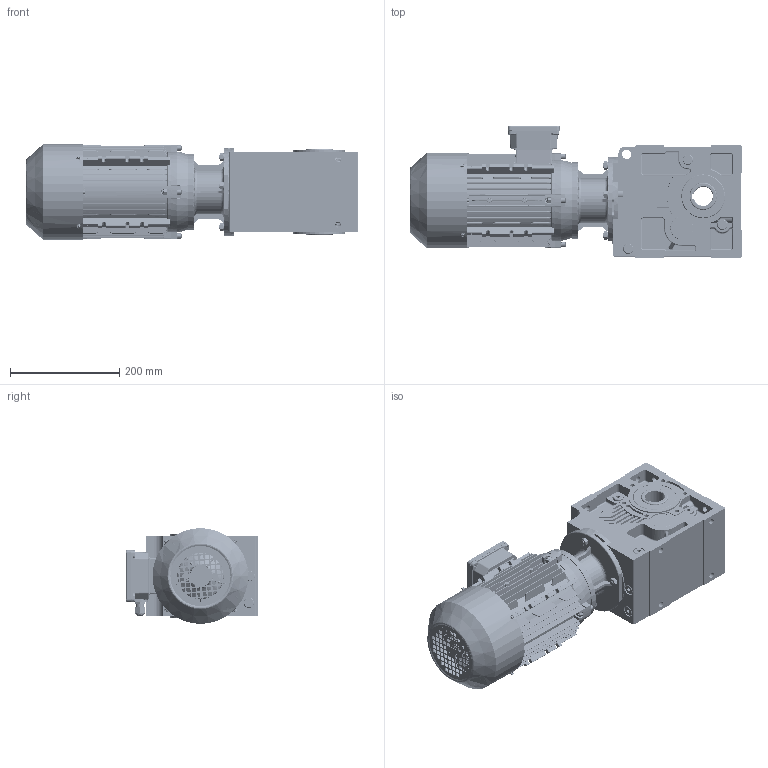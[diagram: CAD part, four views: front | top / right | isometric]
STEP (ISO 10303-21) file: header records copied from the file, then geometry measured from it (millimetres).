
FILE_DESCRIPTION (( 'STEP AP203' ), '1' );
FILE_NAME ('KV_273_0_MX3-90L.STEP', '2018-11-21T12:00:34', ( '' ), ( '' ), 'SwSTEP 2.0', 'SolidWorks 2012', '' );
FILE_SCHEMA (( 'CONFIG_CONTROL_DESIGN' ));
Length unit declared in the file: millimetre
Products named in the file (26): cross recessed pan head tapping screws gb_GB_CROSS_SCREWS_TYPE128 ST4.2X9.5 H C-N_1; hexagon socket head cap screws gb_GB_FASTENER_SCREWS_HSHCS M6X30-N_1; hexagon flange head tapping screws gb_GB_SQUARE_AND_HEXAGON_TYPE137 ST4.2X9.5 F-N_1; spring lock washers--normal type gb_GB_FASTENER_WASHER_SW 6_1; IE3 90L terminal box cover_1; IE3 90L terminal box_1; plain parallel keys_GB_CONNECTING_PIECE_KEYS_CSK 8X40_1; IE3 90L rotor_1; IE3 90L fan_1; IE3 90L fan cover_1; ML17A_Varsayìlan; IE3 90L casing_1; 2390B14_Varsayìlan; K273_Varsayìlan; KV_273_0_MX3-90L; MX3-90L_B14; IE3-90L flange B14; IE3 90L  oil seal_1; hexagon nuts grade c gb_GB_FASTENER_NUT_SNC1 M6-N_1; cross recessed pan head screws gb_GB_CROSS_SCREWS_TYPE1 M5X10-10  H type-N_1; IE3 90L cable glandsM16_1; plain washers-n series-grade a gb_GB_FASTENER_WASHER_PWNA 4_1; IE3 90L grouding mark_1; circlips for shaft--type a large gb_GB_CONNECTING_PIECE_RING_RRA 19_1; cross recessed pan head screws gb_GB_CROSS_SCREWS_TYPE1 M4X5-5  H type-N_1; IE3 90L flange_1
Assembly tree (55 placements, depth 3):
  KV_273_0_MX3-90L
    K273_Varsayìlan
    2390B14_Varsayìlan
    ML17A_Varsayìlan
    MX3-90L_B14
      IE3 90L casing_1
      IE3 90L rotor_1
      IE3 90L fan_1
      IE3 90L fan cover_1
      plain parallel keys_GB_CONNECTING_PIECE_KEYS_CSK 8X40_1
      IE3 90L terminal box_1
      IE3 90L terminal box cover_1
      spring lock washers--normal type gb_GB_FASTENER_WASHER_SW 6_1  x8
      cross recessed pan head tapping screws gb_GB_CROSS_SCREWS_TYPE128 ST4.2X9.5 H C-N_1  x4
      hexagon flange head tapping screws gb_GB_SQUARE_AND_HEXAGON_TYPE137 ST4.2X9.5 F-N_1  x4
      hexagon socket head cap screws gb_GB_FASTENER_SCREWS_HSHCS M6X30-N_1  x8
      IE3 90L flange_1
      circlips for shaft--type a large gb_GB_CONNECTING_PIECE_RING_RRA 19_1
      IE3 90L grouding mark_1
      plain washers-n series-grade a gb_GB_FASTENER_WASHER_PWNA 4_1
      cross recessed pan head screws gb_GB_CROSS_SCREWS_TYPE1 M4X5-5  H type-N_1
      cross recessed pan head screws gb_GB_CROSS_SCREWS_TYPE1 M5X10-10  H type-N_1  x4
      IE3 90L cable glandsM16_1  x2
      IE3 90L  oil seal_1
      hexagon nuts grade c gb_GB_FASTENER_NUT_SNC1 M6-N_1  x7
      IE3-90L flange B14
Bounding box: 607.4 x 240 x 175.1 mm (x, y, z)
Volume: 8043789.9 mm3; surface area: 1303351.5 mm2
Topology: 54 solids, 54 shells, 6061 faces, 15429 edges, 9532 vertices
Faces by surface type: plane 2327, cylinder 1910, bspline 1116, cone 427, torus 164, sphere 117
Entity records: 212075 total; most frequent: CARTESIAN_POINT 85678, ORIENTED_EDGE 27452, DIRECTION 23095, EDGE_CURVE 13726, VERTEX_POINT 8565, AXIS2_PLACEMENT_3D 8353, VECTOR 6389, LINE 6389
